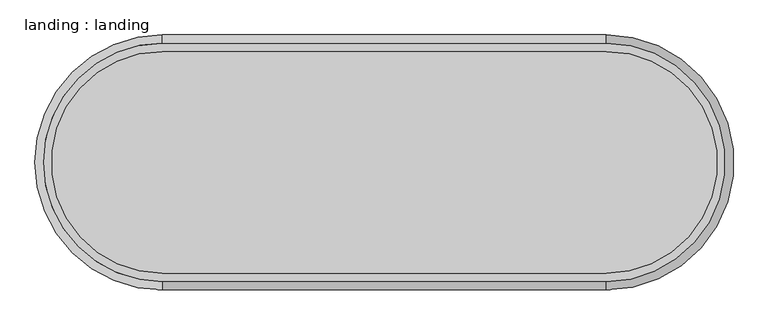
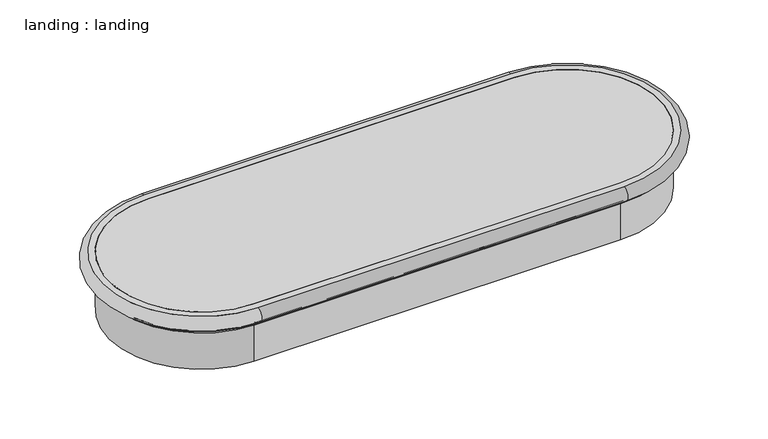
"""IFC4 building model written with IfcOpenShell, lengths in millimetres: proxy geometry, landing : landing."""

from ifc_helpers import new_model, si_unit, point, frame, frame_2d, origin, origin_with_axes, place, context, project, spatial, polyline, circle_curve, ellipse_curve, trimmed, segment, composite_curve, outline, extrude, source, transform, mapped, element, save
from ifc_brep_helpers import plane_surface, cylinder_surface, revolved_surface, advanced_brep


def landing_landing_48b65c4f(model_context):
    return source(origin(), model_context, "Body", "SolidModel", [
        advanced_brep(
        [(508.0, 323.85, 168.275), (508.0, -222.25, 168.275), (508.0, -222.25, 130.175), (508.0, 323.85, 130.175), (508.0, 304.8, 111.125), (508.0, -203.2, 111.125), (508.0, -203.2, 168.275), (508.0, 304.8, 168.275), (508.0, 323.85, 123.825), (508.0, -222.25, 123.825), (508.0, -209.55, 111.125), (508.0, 311.15, 111.125), (-508.0, 323.85, 130.175), (-508.0, 323.85, 168.275), (-508.0, 304.8, 168.275), (-508.0, 304.8, 111.125), (-508.0, 311.15, 111.125), (-508.0, 323.85, 123.825), (-508.0, -222.25, 168.275), (-508.0, -222.25, 130.175), (-508.0, -203.2, 111.125), (-508.0, -203.2, 168.275), (-508.0, -222.25, 123.825), (-508.0, -209.55, 111.125)],
        [
            (0, 1, circle_curve(frame((508.0, 50.8, 168.275), z_axis=(0.0, 0.0, -1.0), x_axis=(0.0, -1.0, 0.0)), 273.05)),
            (1, 2, circle_curve(frame((508.0, -222.25, 149.225), z_axis=(1.0, 0.0, 0.0), x_axis=(0.0, 1.0, 0.0)), 19.05)),
            (2, 3, circle_curve(frame((508.0, 50.8, 130.175), z_axis=(0.0, 0.0, 1.0), x_axis=(0.0, -1.0, 0.0)), 273.05)),
            (3, 0, circle_curve(frame((508.0, 323.85, 149.225), z_axis=(1.0, 0.0, 0.0), x_axis=(0.0, -1.0, 0.0)), 19.05)),
            (4, 5, circle_curve(frame((508.0, 50.8, 111.125), z_axis=(0.0, 0.0, -1.0), x_axis=(0.0, -1.0, 0.0)), 254.0)),
            (5, 6),
            (6, 7, circle_curve(frame((508.0, 50.8, 168.275), z_axis=(0.0, 0.0, 1.0), x_axis=(0.0, -1.0, 0.0)), 254.0)),
            (7, 4),
            (8, 9, circle_curve(frame((508.0, 50.8, 123.825), z_axis=(0.0, 0.0, -1.0), x_axis=(0.0, -1.0, 0.0)), 273.05)),
            (9, 10, circle_curve(frame((508.0, -222.25, 111.125), z_axis=(-1.0, 0.0, 0.0), x_axis=(0.0, 1.0, 0.0)), 12.7)),
            (10, 11, circle_curve(frame((508.0, 50.8, 111.125), z_axis=(0.0, 0.0, 1.0), x_axis=(0.0, -1.0, 0.0)), 260.35)),
            (11, 8, circle_curve(frame((508.0, 323.85, 111.125), z_axis=(-1.0, 0.0, 0.0), x_axis=(0.0, -1.0, 0.0)), 12.7)),
            (2, 9),
            (8, 3),
            (3, 12),
            (12, 13, circle_curve(frame((-508.0, 323.85, 149.225), z_axis=(1.0, 0.0, 0.0), x_axis=(0.0, -1.0, 0.0)), 19.05)),
            (13, 0),
            (7, 14),
            (14, 15),
            (15, 4),
            (11, 16),
            (16, 17, circle_curve(frame((-508.0, 323.85, 111.125), z_axis=(-1.0, 0.0, 0.0), x_axis=(0.0, -1.0, 0.0)), 12.7)),
            (17, 8),
            (17, 12),
            (18, 13, circle_curve(frame((-508.0, 50.8, 168.275), z_axis=(0.0, 0.0, -1.0), x_axis=(0.0, 1.0, 0.0)), 273.05)),
            (12, 19, circle_curve(frame((-508.0, 50.8, 130.175), z_axis=(0.0, 0.0, 1.0), x_axis=(0.0, 1.0, 0.0)), 273.05)),
            (19, 18, circle_curve(frame((-508.0, -222.25, 149.225), z_axis=(-1.0, 0.0, 0.0), x_axis=(0.0, 1.0, 0.0)), 19.05)),
            (20, 15, circle_curve(frame((-508.0, 50.8, 111.125), z_axis=(0.0, 0.0, -1.0), x_axis=(0.0, 1.0, 0.0)), 254.0)),
            (14, 21, circle_curve(frame((-508.0, 50.8, 168.275), z_axis=(0.0, 0.0, 1.0), x_axis=(0.0, 1.0, 0.0)), 254.0)),
            (21, 20),
            (22, 17, circle_curve(frame((-508.0, 50.8, 123.825), z_axis=(0.0, 0.0, -1.0), x_axis=(0.0, 1.0, 0.0)), 273.05)),
            (16, 23, circle_curve(frame((-508.0, 50.8, 111.125), z_axis=(0.0, 0.0, 1.0), x_axis=(0.0, 1.0, 0.0)), 260.35)),
            (23, 22, circle_curve(frame((-508.0, -222.25, 111.125), z_axis=(1.0, 0.0, 0.0), x_axis=(0.0, 1.0, 0.0)), 12.7)),
            (22, 19),
            (19, 2),
            (1, 18),
            (6, 21),
            (5, 20),
            (10, 23),
            (9, 22),
        ],
        [
            revolved_surface(trimmed(ellipse_curve(frame((508.0, -222.25, 149.225), z_axis=(-1.0, 0.0, 0.0), x_axis=(0.0, 1.0, 0.0)), 19.05, 19.05), [point((508.0, -222.25, 130.175))], [point((508.0, -222.25, 168.275))], True, "CARTESIAN"), (508.0, 50.8, 168.275), (0.0, 0.0, 1.0)),
            revolved_surface(polyline([(508.0, -203.2, 168.275), (508.0, -203.2, 111.125)]), (508.0, 50.8, 168.275), (0.0, 0.0, 1.0)),
            revolved_surface(trimmed(ellipse_curve(frame((508.0, -222.25, 111.125), z_axis=(1.0, 0.0, 0.0), x_axis=(0.0, 1.0, 0.0)), 12.7, 12.7), [point((508.0, -209.55, 111.125))], [point((508.0, -222.25, 123.825))], True, "CARTESIAN"), (508.0, 50.8, 168.275), (0.0, 0.0, 1.0)),
            cylinder_surface(frame((508.0, 50.8, 168.275), z_axis=(0.0, 0.0, 1.0), x_axis=(0.0, -1.0, 0.0)), 273.05),
            cylinder_surface(frame((508.0, 323.85, 149.225), z_axis=(1.0, 0.0, 0.0), x_axis=(0.0, -1.0, 0.0)), 19.05),
            plane_surface(frame((508.0, 304.8, 168.275), z_axis=(0.0, -1.0, 0.0), x_axis=(-1.0, 0.0, 0.0))),
            revolved_surface(polyline([(-508.0, 311.15000000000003, 111.125), (508.0, 311.15000000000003, 111.125)]), (508.0, 323.85, 111.125), (-1.0, 0.0, 0.0)),
            plane_surface(frame((508.0, 323.85, 123.825), z_axis=(0.0, 1.0, 0.0), x_axis=(-1.0, 0.0, 0.0))),
            revolved_surface(trimmed(ellipse_curve(frame((-508.0, 323.85, 149.225), z_axis=(1.0, 0.0, 0.0), x_axis=(0.0, -1.0, 0.0)), 19.05, 19.05), [point((-508.0, 323.85, 130.175))], [point((-508.0, 323.85, 168.275))], True, "CARTESIAN"), (-508.0, 50.8, 168.275), (0.0, 0.0, 1.0)),
            revolved_surface(polyline([(-508.0, 304.8, 168.275), (-508.0, 304.8, 111.125)]), (-508.0, 50.8, 168.275), (0.0, 0.0, 1.0)),
            revolved_surface(trimmed(ellipse_curve(frame((-508.0, 323.85, 111.125), z_axis=(-1.0, 0.0, 0.0), x_axis=(0.0, -1.0, 0.0)), 12.7, 12.7), [point((-508.0, 311.15, 111.125))], [point((-508.0, 323.85, 123.825))], True, "CARTESIAN"), (-508.0, 50.8, 168.275), (0.0, 0.0, 1.0)),
            cylinder_surface(frame((-508.0, 50.8, 168.275), z_axis=(0.0, 0.0, 1.0), x_axis=(0.0, 1.0, 0.0)), 273.05),
            cylinder_surface(frame((-508.0, -222.25, 149.225), z_axis=(-1.0, 0.0, 0.0), x_axis=(0.0, 1.0, 0.0)), 19.05),
            plane_surface(frame((-508.0, -222.25, 168.275), z_axis=(0.0, 0.0, 1.0), x_axis=(1.0, 0.0, 0.0))),
            plane_surface(frame((-508.0, -203.2, 168.275), z_axis=(0.0, 1.0, 0.0), x_axis=(1.0, 0.0, 0.0))),
            plane_surface(frame((-508.0, -203.2, 111.125), z_axis=(0.0, 0.0, -1.0), x_axis=(1.0, 0.0, 0.0))),
            revolved_surface(polyline([(508.0, -209.55, 111.125), (-508.0, -209.55, 111.125)]), (-508.0, -222.25, 111.125), (1.0, 0.0, 0.0)),
            plane_surface(frame((-508.0, -222.25, 123.825), z_axis=(0.0, -1.0, 0.0), x_axis=(1.0, 0.0, 0.0))),
        ],
        [
            (0, [[1, 2, 3, 4]]),
            (1, [[5, 6, 7, 8]]),
            (2, [[9, 10, 11, 12]]),
            (3, [[-3, 13, -9, 14]]),
            (4, [[-4, 15, 16, 17]]),
            (5, [[-8, 18, 19, 20]]),
            (6, [[-12, 21, 22, 23]]),
            (7, [[-14, -23, 24, -15]]),
            (8, [[25, -16, 26, 27]]),
            (9, [[28, -19, 29, 30]]),
            (10, [[31, -22, 32, 33]]),
            (11, [[-26, -24, -31, 34]]),
            (12, [[-27, 35, -2, 36]]),
            (13, [[-17, -25, -36, -1], [37, -29, -18, -7]]),
            (14, [[-30, -37, -6, 38]]),
            (15, [[39, -32, -21, -11], [-20, -28, -38, -5]]),
            (16, [[-33, -39, -10, 40]]),
            (17, [[-34, -40, -13, -35]]),
        ],
    ),
        extrude(outline(composite_curve([segment(trimmed(circle_curve(frame_2d((-508.0, 50.8)), 254.0), [point((-508.0, -203.2))], [point((-508.0, 304.8))], False, "CARTESIAN"), True, "CONTINUOUS"), segment(polyline([(-508.0, 304.8), (508.0, 304.8)]), True, "CONTINUOUS"), segment(trimmed(circle_curve(frame_2d((508.0, 50.8)), 254.0), [point((508.0, 304.8))], [point((508.0, -203.2))], False, "CARTESIAN"), True, "CONTINUOUS"), segment(polyline([(508.0, -203.2), (-508.0, -203.2)]), True, "CONTINUOUS")], self_intersect=False)), frame((0.0, 0.0, 142.875), z_axis=(0.0, 0.0, 1.0), x_axis=(1.0, 0.0, 0.0)), (0.0, 0.0, 1.0), 25.4),
        extrude(outline(composite_curve([segment(polyline([(-508.0, 304.8), (508.0, 304.8)]), True, "CONTINUOUS"), segment(trimmed(circle_curve(frame_2d((508.0, 50.8)), 254.0), [point((508.0, 304.8))], [point((508.0, -203.2))], False, "CARTESIAN"), True, "CONTINUOUS"), segment(polyline([(508.0, -203.2), (-508.0, -203.2)]), True, "CONTINUOUS"), segment(trimmed(circle_curve(frame_2d((-508.0, 50.8)), 254.0), [point((-508.0, -203.2))], [point((-508.0, 304.8))], False, "CARTESIAN"), True, "CONTINUOUS")], self_intersect=False), holes=[composite_curve([segment(trimmed(circle_curve(frame_2d((-508.0, 50.8)), 234.95), [point((-508.0, 285.75))], [point((-508.0, -184.15))], True, "CARTESIAN"), True, "CONTINUOUS"), segment(polyline([(-508.0, -184.15), (508.0, -184.15)]), True, "CONTINUOUS"), segment(trimmed(circle_curve(frame_2d((508.0, 50.8)), 234.95), [point((508.0, -184.15))], [point((508.0, 285.75))], True, "CARTESIAN"), True, "CONTINUOUS"), segment(polyline([(508.0, 285.75), (-508.0, 285.75)]), True, "CONTINUOUS")], self_intersect=False)]), origin_with_axes(), (0.0, 0.0, 1.0), 142.875),
    ])


if __name__ == "__main__":
    model = new_model("IFC4")
    model_context = context("Model", 3, world=origin())
    ifc_project = project(units=[si_unit("LENGTHUNIT", "METRE", prefix="MILLI")], contexts=[model_context])
    site = spatial("IfcSite", under=ifc_project)
    building = spatial("IfcBuilding", under=site)
    placement = place(None, origin())
    landing_landing_shape = landing_landing_48b65c4f(model_context)
    element("IfcBuildingElementProxy", 1, Name="landing : landing", ObjectType="landing : landing", at=placement, inside=building, context=model_context, shape_type="MappedRepresentation", body=[
        mapped(landing_landing_shape, transform((0.0, 0.0, 0.0), x_axis=(1.0, 0.0, 0.0), y_axis=(0.0, 1.0, 0.0), z_axis=(0.0, 0.0, 1.0))),
    ])
    save(model, "model.ifc")
